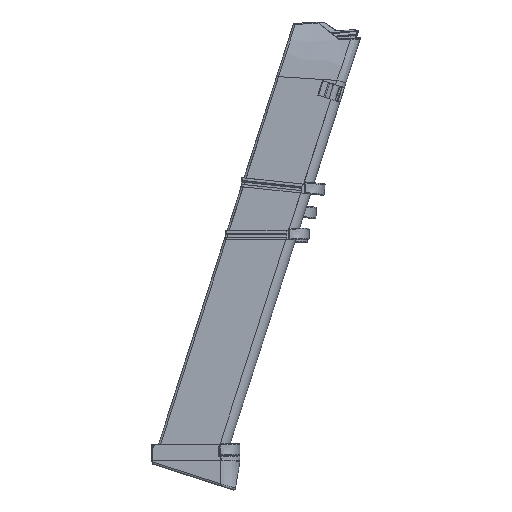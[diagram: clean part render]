
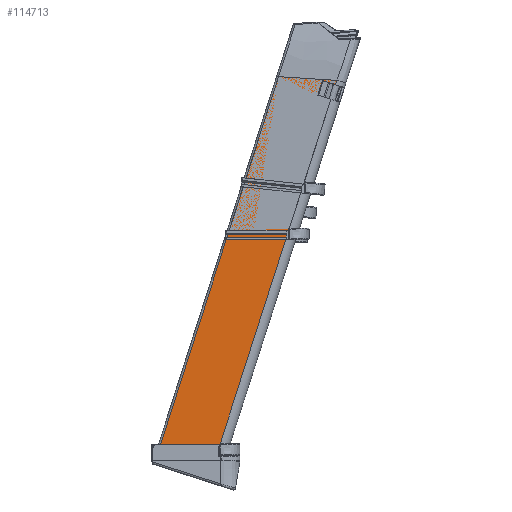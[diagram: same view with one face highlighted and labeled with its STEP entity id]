
A CAD part, front view. The second image highlights one B-rep face of the part: STEP entity #114713.
In plain terms, the highlighted planar face has unit normal (0, -1, 0).
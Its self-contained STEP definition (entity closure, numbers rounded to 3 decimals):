
#4456=CIRCLE('',#120187,0.5);
#12178=FACE_OUTER_BOUND('',#18874,.T.);
#18874=EDGE_LOOP('',(#91673,#91674,#91675,#91676,#91677,#91678,#91679,#91680,
#91681,#91682));
#24985=B_SPLINE_CURVE_WITH_KNOTS('',3,(#205144,#205145,#205146,#205147),
 .UNSPECIFIED.,.F.,.F.,(4,4),(-16.498,-13.44),
 .UNSPECIFIED.);
#32340=LINE('',#205089,#40464);
#32350=LINE('',#205129,#40474);
#32352=LINE('',#205135,#40476);
#32353=LINE('',#205137,#40477);
#32354=LINE('',#205138,#40478);
#32355=LINE('',#205140,#40479);
#32356=LINE('',#205142,#40480);
#32357=LINE('',#205148,#40481);
#40464=VECTOR('',#130641,10.);
#40474=VECTOR('',#130665,10.);
#40476=VECTOR('',#130671,10.);
#40477=VECTOR('',#130672,10.);
#40478=VECTOR('',#130673,10.);
#40479=VECTOR('',#130674,10.);
#40480=VECTOR('',#130675,10.);
#40481=VECTOR('',#130676,10.);
#50301=VERTEX_POINT('',#203753);
#50302=VERTEX_POINT('',#203754);
#50322=VERTEX_POINT('',#205088);
#50333=VERTEX_POINT('',#205126);
#50334=VERTEX_POINT('',#205128);
#50336=VERTEX_POINT('',#205134);
#50337=VERTEX_POINT('',#205136);
#50338=VERTEX_POINT('',#205139);
#50339=VERTEX_POINT('',#205141);
#50340=VERTEX_POINT('',#205143);
#64996=EDGE_CURVE('',#50301,#50302,#4456,.F.);
#65028=EDGE_CURVE('',#50322,#50302,#32340,.T.);
#65043=EDGE_CURVE('',#50333,#50334,#32350,.T.);
#65046=EDGE_CURVE('',#50336,#50322,#32352,.T.);
#65047=EDGE_CURVE('',#50301,#50337,#32353,.F.);
#65048=EDGE_CURVE('',#50337,#50334,#32354,.T.);
#65049=EDGE_CURVE('',#50333,#50338,#32355,.T.);
#65050=EDGE_CURVE('',#50339,#50338,#32356,.T.);
#65051=EDGE_CURVE('',#50340,#50339,#24985,.T.);
#65052=EDGE_CURVE('',#50336,#50340,#32357,.T.);
#91673=ORIENTED_EDGE('',*,*,#65046,.T.);
#91674=ORIENTED_EDGE('',*,*,#65028,.T.);
#91675=ORIENTED_EDGE('',*,*,#64996,.F.);
#91676=ORIENTED_EDGE('',*,*,#65047,.T.);
#91677=ORIENTED_EDGE('',*,*,#65048,.T.);
#91678=ORIENTED_EDGE('',*,*,#65043,.F.);
#91679=ORIENTED_EDGE('',*,*,#65049,.T.);
#91680=ORIENTED_EDGE('',*,*,#65050,.F.);
#91681=ORIENTED_EDGE('',*,*,#65051,.F.);
#91682=ORIENTED_EDGE('',*,*,#65052,.F.);
#110484=PLANE('',#120209);
#114713=ADVANCED_FACE('',(#12178),#110484,.F.);
#120187=AXIS2_PLACEMENT_3D('',#203755,#130594,#130595);
#120209=AXIS2_PLACEMENT_3D('',#205133,#130669,#130670);
#130594=DIRECTION('center_axis',(0.,1.,0.));
#130595=DIRECTION('ref_axis',(-0.707,0.,0.707));
#130641=DIRECTION('',(0.,0.,1.));
#130665=DIRECTION('',(-0.306,0.,-0.952));
#130669=DIRECTION('center_axis',(0.,1.,0.));
#130670=DIRECTION('ref_axis',(0.,0.,1.));
#130671=DIRECTION('',(1.,0.,0.));
#130672=DIRECTION('',(-0.306,0.,-0.952));
#130673=DIRECTION('',(-0.952,0.,0.306));
#130674=DIRECTION('',(0.952,0.,-0.306));
#130675=DIRECTION('',(-0.306,0.,-0.952));
#130676=DIRECTION('',(0.306,0.,0.952));
#203753=CARTESIAN_POINT('',(-45.097,-91.497,-118.996));
#203754=CARTESIAN_POINT('',(-45.302,-91.497,-119.4));
#203755=CARTESIAN_POINT('Origin',(-44.802,-91.497,-119.4));
#205088=CARTESIAN_POINT('',(-45.302,-91.497,-120.15));
#205089=CARTESIAN_POINT('',(-45.302,-91.497,-50.647));
#205126=CARTESIAN_POINT('',(8.74,-91.497,72.206));
#205128=CARTESIAN_POINT('',(6.294,-91.497,64.589));
#205129=CARTESIAN_POINT('',(-11.112,-91.497,10.375));
#205133=CARTESIAN_POINT('Origin',(-19.423,-91.497,-2.394));
#205134=CARTESIAN_POINT('',(-76.72,-91.497,-120.15));
#205135=CARTESIAN_POINT('',(-44.319,-91.497,-120.15));
#205136=CARTESIAN_POINT('',(13.14,-91.497,62.391));
#205137=CARTESIAN_POINT('',(-0.332,-91.497,20.431));
#205138=CARTESIAN_POINT('',(10.093,-91.497,63.369));
#205139=CARTESIAN_POINT('',(15.586,-91.497,70.008));
#205140=CARTESIAN_POINT('',(12.539,-91.497,70.986));
#205141=CARTESIAN_POINT('',(16.326,-91.497,72.314));
#205142=CARTESIAN_POINT('',(15.722,-91.497,70.431));
#205143=CARTESIAN_POINT('',(-14.306,-91.497,74.245));
#205144=CARTESIAN_POINT('Ctrl Pts',(-14.306,-91.497,74.245));
#205145=CARTESIAN_POINT('Ctrl Pts',(-4.02,-91.497,73.492));
#205146=CARTESIAN_POINT('Ctrl Pts',(6.152,-91.497,72.864));
#205147=CARTESIAN_POINT('Ctrl Pts',(16.328,-91.497,72.313));
#205148=CARTESIAN_POINT('',(-45.799,-91.497,-23.843));
